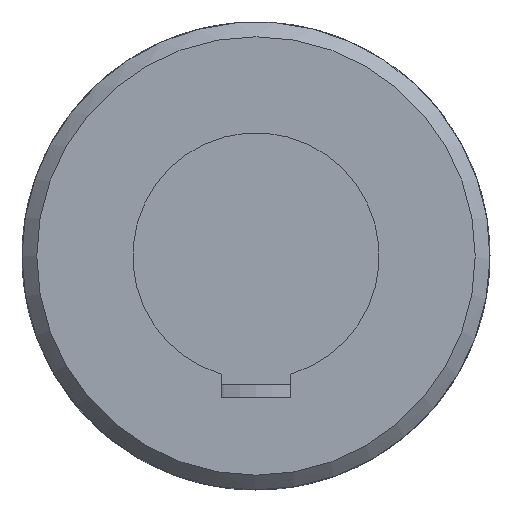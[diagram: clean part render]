
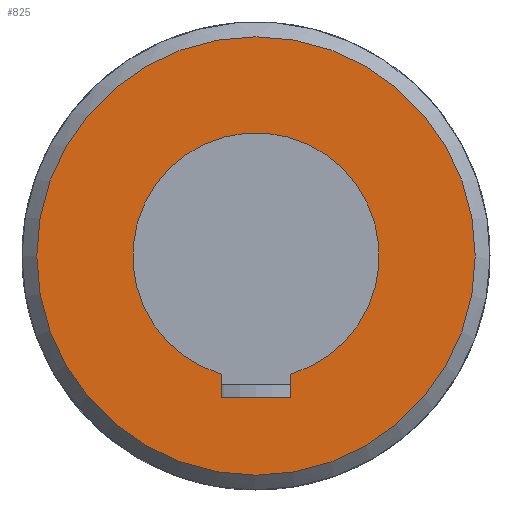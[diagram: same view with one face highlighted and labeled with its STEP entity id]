
A CAD part, front view. The second image highlights one B-rep face of the part: STEP entity #825.
In plain terms, the highlighted planar face has unit normal (0, -1, 0).
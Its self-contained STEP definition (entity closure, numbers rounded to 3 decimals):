
#91=LINE('',#1278,#128);
#95=LINE('',#1300,#132);
#97=LINE('',#1308,#134);
#128=VECTOR('',#1048,4.8);
#132=VECTOR('',#1060,14.);
#134=VECTOR('',#1064,4.8);
#160=PLANE('',#906);
#185=FACE_BOUND('',#284,.T.);
#219=FACE_OUTER_BOUND('',#283,.T.);
#283=EDGE_LOOP('',(#668));
#284=EDGE_LOOP('',(#669,#670,#671,#672));
#335=CIRCLE('',#893,25.);
#339=CIRCLE('',#902,44.5);
#387=VERTEX_POINT('',#1275);
#388=VERTEX_POINT('',#1277);
#391=VERTEX_POINT('',#1287);
#393=VERTEX_POINT('',#1298);
#398=VERTEX_POINT('',#1357);
#478=EDGE_CURVE('',#388,#387,#91,.T.);
#482=EDGE_CURVE('',#391,#388,#335,.T.);
#486=EDGE_CURVE('',#387,#393,#95,.T.);
#489=EDGE_CURVE('',#393,#391,#97,.T.);
#495=EDGE_CURVE('',#398,#398,#339,.T.);
#668=ORIENTED_EDGE('',*,*,#495,.F.);
#669=ORIENTED_EDGE('',*,*,#486,.T.);
#670=ORIENTED_EDGE('',*,*,#489,.T.);
#671=ORIENTED_EDGE('',*,*,#482,.T.);
#672=ORIENTED_EDGE('',*,*,#478,.T.);
#825=ADVANCED_FACE('',(#219,#185),#160,.F.);
#893=AXIS2_PLACEMENT_3D('',#1288,#1054,#1055);
#902=AXIS2_PLACEMENT_3D('',#1358,#1077,#1078);
#906=AXIS2_PLACEMENT_3D('',#1602,#1089,#1090);
#1048=DIRECTION('',(0.,0.,-1.));
#1054=DIRECTION('center_axis',(0.,1.,0.));
#1055=DIRECTION('ref_axis',(0.28,0.,-0.96));
#1060=DIRECTION('',(-1.,0.,0.));
#1064=DIRECTION('',(0.,0.,1.));
#1077=DIRECTION('center_axis',(0.,1.,0.));
#1078=DIRECTION('ref_axis',(1.,0.,0.));
#1089=DIRECTION('center_axis',(0.,1.,0.));
#1090=DIRECTION('ref_axis',(0.,0.,1.));
#1275=CARTESIAN_POINT('',(7.,-118.,-28.8));
#1277=CARTESIAN_POINT('',(7.,-118.,-24.));
#1278=CARTESIAN_POINT('',(7.,-118.,-12.));
#1287=CARTESIAN_POINT('',(-7.,-118.,-24.));
#1288=CARTESIAN_POINT('Origin',(0.,-118.,0.));
#1298=CARTESIAN_POINT('',(-7.,-118.,-28.8));
#1300=CARTESIAN_POINT('',(3.5,-118.,-28.8));
#1308=CARTESIAN_POINT('',(-7.,-118.,-14.4));
#1357=CARTESIAN_POINT('',(-44.5,-118.,0.));
#1358=CARTESIAN_POINT('Origin',(0.,-118.,0.));
#1602=CARTESIAN_POINT('Origin',(0.,-118.,0.));
